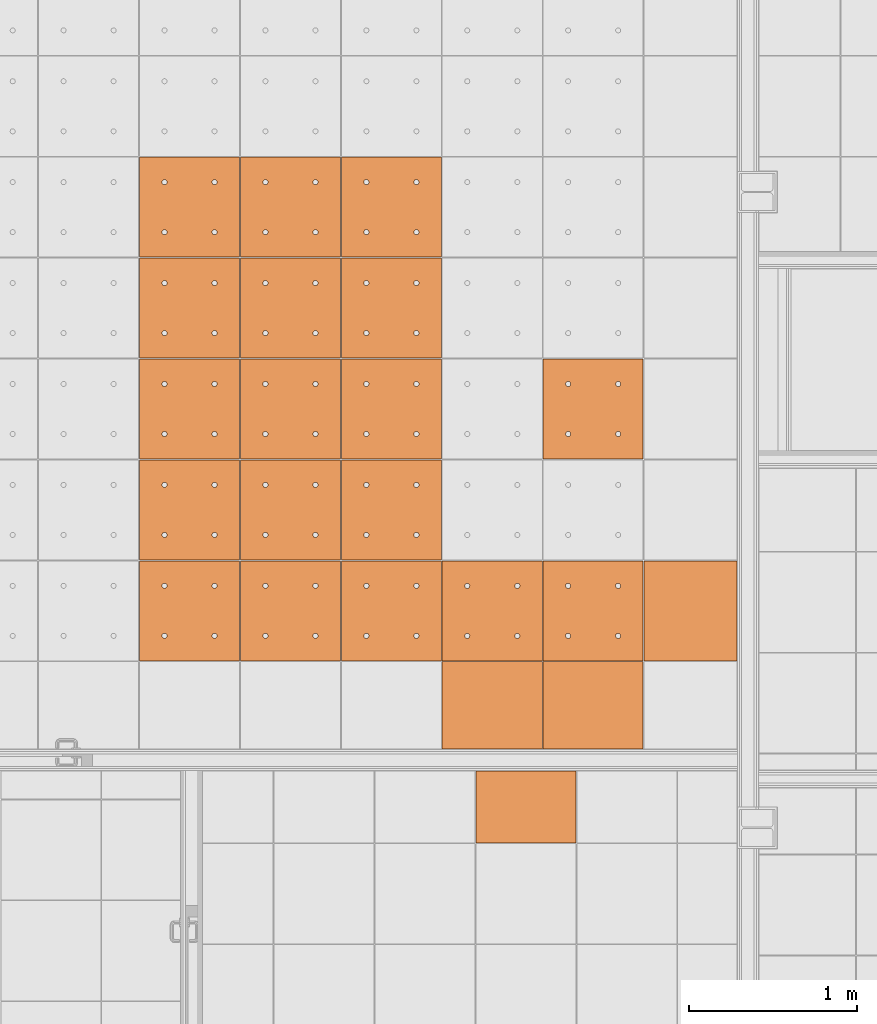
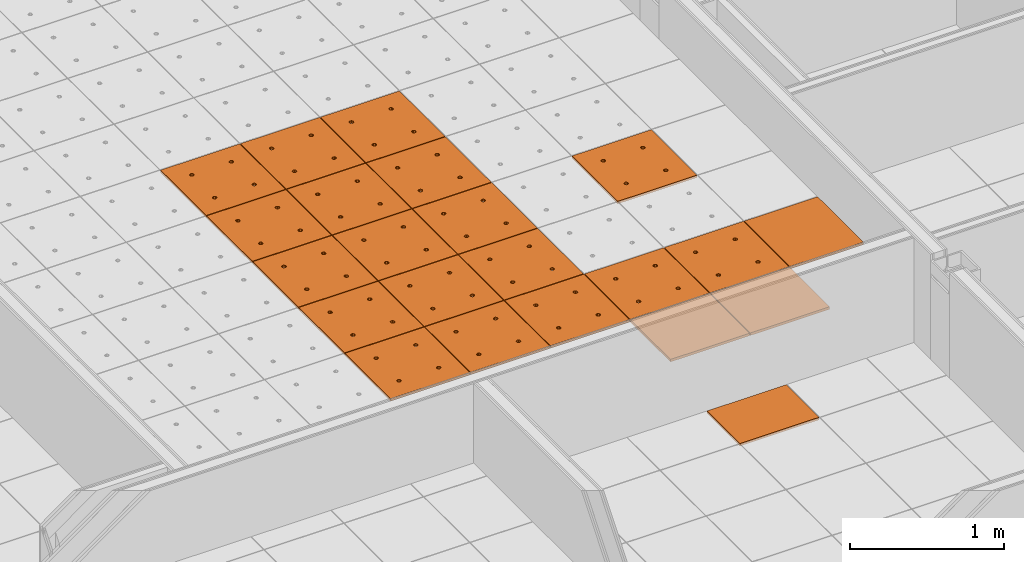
# One storey, part 289 of 338: 22 proxies, 2 elements without a shape of their own.
"""IFC2X3 building model written with IfcOpenShell, lengths in millimetres."""

from ifc_helpers import new_model, entity, si_unit, converted_unit, derived_unit, money_unit, direction, frame, origin_with_axes, place, context, subcontext, project, spatial, faceted_brep, source, transform, mapped, material, type_object, type_shapes, element, aggregate, save


model = new_model("IFC2X3")

# Units and contexts
model_context = context("Model", 3, precision=0.01, world=origin_with_axes(), true_north=direction((0.0, 1.0)))
plan_context = context("Plan", 3, precision=0.01, world=origin_with_axes(), true_north=direction((0.0, 1.0)))
body_context = subcontext(model_context, "Body", "Model", "MODEL_VIEW")
ifc_project = project(units=[si_unit("LENGTHUNIT", "METRE", prefix="MILLI"), si_unit("AREAUNIT", "SQUARE_METRE"), si_unit("VOLUMEUNIT", "CUBIC_METRE"), converted_unit("PLANEANGLEUNIT", "DEGREE", entity("IfcPlaneAngleMeasure", 0.0174532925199), si_unit("PLANEANGLEUNIT", "RADIAN"), dimensions=[0, 0, 0, 0, 0, 0, 0]), money_unit("EUR"), converted_unit("TIMEUNIT", "Year", entity("IfcTimeMeasure", 31556926.0), si_unit("TIMEUNIT", "SECOND"), dimensions=[0, 0, 1, 0, 0, 0, 0]), si_unit("MASSUNIT", "GRAM", prefix="KILO"), si_unit("THERMODYNAMICTEMPERATUREUNIT", "DEGREE_CELSIUS"), si_unit("LUMINOUSINTENSITYUNIT", "LUMEN"), si_unit("ENERGYUNIT", "JOULE", prefix="MEGA"), derived_unit("THERMALCONDUCTANCEUNIT", [(si_unit("POWERUNIT", "WATT"), 1), (si_unit("LENGTHUNIT", "METRE"), -1), (si_unit("THERMODYNAMICTEMPERATUREUNIT", "KELVIN"), -1)]), derived_unit("SPECIFICHEATCAPACITYUNIT", [(si_unit("ENERGYUNIT", "JOULE"), 1), (si_unit("MASSUNIT", "GRAM", prefix="KILO"), -1), (si_unit("THERMODYNAMICTEMPERATUREUNIT", "KELVIN"), -1)]), derived_unit("MASSDENSITYUNIT", [(si_unit("MASSUNIT", "GRAM", prefix="KILO"), 1), (si_unit("VOLUMEUNIT", "CUBIC_METRE"), -1)])], contexts=[model_context, plan_context])

# Site, building, storey
site_placement = place(None, origin_with_axes())
site = spatial("IfcSite", under=ifc_project, at=site_placement, Name="Fortuinstraat Woensdrecht", CompositionType="ELEMENT")
building_placement = place(site_placement, origin_with_axes())
building = spatial("IfcBuilding", under=site, at=building_placement, Name="IKC Fortuna", CompositionType="ELEMENT")
storey_placement = place(building_placement, origin_with_axes())
storey = spatial("IfcBuildingStorey", under=building, at=storey_placement, Name="00 begane grond", CompositionType="ELEMENT", Elevation=0.0)

# Covering, proxies
covering_type = type_object("IfcCoveringType", Name="Curtain Wall Type", PredefinedType="CEILING")
covering_1_placement = place(storey_placement, frame((24394.3550152, 31482.3495284, 3210.0), z_axis=(0.0, 0.0, 1.0), x_axis=(1.0, 0.0, 0.0)))
covering_1 = element("IfcCovering", 1, at=covering_1_placement, inside=storey, type_object=covering_type, Name="45_Plafondafwerking_P01", PredefinedType="CEILING")
ifc_material = material(Name="Gipsplaat")
building_element_proxy_type_1 = type_object("IfcBuildingElementProxyType", Name="Main Panel 600 x 600 x 20", PredefinedType="NOTDEFINED")
shared_shape_1 = source(origin_with_axes(), body_context, "Body", "Brep", [
    faceted_brep([(2.49999999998, 2.49999999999, -10.0), (300.0, 2.49999999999, -10.0), (300.0, 2.49999999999, 10.0), (2.49999999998, 2.49999999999, 10.0), (2.49999999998, 300.0, -10.0), (2.49999999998, 597.5, -10.0), (300.0, 597.5, -10.0), (597.5, 597.5, -10.0), (597.5, 300.0, -10.0), (597.5, 2.49999999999, -10.0), (166.25, 450.06232995, -10.0), (165.79423259, 452.64711538, -10.0), (164.896546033, 455.11348892, -10.0), (163.58421608, 457.38651108, -10.0), (161.897117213, 459.39711721, -10.0), (159.886511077, 461.08421608, -10.0), (157.613488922, 462.39654603, -10.0), (155.147115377, 463.29423259, -10.0), (152.562329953, 463.75, -10.0), (149.937670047, 463.75, -10.0), (147.352884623, 463.29423259, -10.0), (144.886511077, 462.39654603, -10.0), (142.613488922, 461.08421608, -10.0), (140.602882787, 459.39711721, -10.0), (138.91578392, 457.38651108, -10.0), (137.603453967, 455.11348892, -10.0), (136.705767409, 452.64711538, -10.0), (136.25, 450.06232995, -10.0), (136.25, 448.75, -10.0), (136.25, 447.43767005, -10.0), (136.705767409, 444.85288462, -10.0), (137.603453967, 442.38651108, -10.0), (138.91578392, 440.11348892, -10.0), (140.602882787, 438.10288279, -10.0), (142.613488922, 436.41578392, -10.0), (144.886511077, 435.10345397, -10.0), (147.352884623, 434.20576741, -10.0), (149.937670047, 433.75, -10.0), (152.562329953, 433.75, -10.0), (155.147115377, 434.20576741, -10.0), (157.613488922, 435.10345397, -10.0), (159.886511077, 436.41578392, -10.0), (161.897117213, 438.10288279, -10.0), (163.58421608, 440.11348892, -10.0), (164.896546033, 442.38651108, -10.0), (165.79423259, 444.85288462, -10.0), (166.25, 447.43767005, -10.0), (463.75, 450.06232995, -10.0), (463.29423259, 452.64711538, -10.0), (462.396546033, 455.11348892, -10.0), (461.08421608, 457.38651108, -10.0), (459.397117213, 459.39711721, -10.0), (457.386511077, 461.08421608, -10.0), (455.113488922, 462.39654603, -10.0), (452.647115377, 463.29423259, -10.0), (450.062329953, 463.75, -10.0), (447.437670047, 463.75, -10.0), (444.852884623, 463.29423259, -10.0), (442.386511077, 462.39654603, -10.0), (440.113488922, 461.08421608, -10.0), (438.102882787, 459.39711721, -10.0), (436.41578392, 457.38651108, -10.0), (435.103453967, 455.11348892, -10.0), (434.205767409, 452.64711538, -10.0), (433.75, 450.06232995, -10.0), (433.75, 448.75, -10.0), (433.75, 447.43767005, -10.0), (434.205767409, 444.85288462, -10.0), (435.103453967, 442.38651108, -10.0), (436.41578392, 440.11348892, -10.0), (438.102882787, 438.10288279, -10.0), (440.113488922, 436.41578392, -10.0), (442.386511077, 435.10345397, -10.0), (444.852884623, 434.20576741, -10.0), (447.437670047, 433.75, -10.0), (450.062329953, 433.75, -10.0), (452.647115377, 434.20576741, -10.0), (455.113488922, 435.10345397, -10.0), (457.386511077, 436.41578392, -10.0), (459.397117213, 438.10288279, -10.0), (461.08421608, 440.11348892, -10.0), (462.396546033, 442.38651108, -10.0), (463.29423259, 444.85288462, -10.0), (463.75, 447.43767005, -10.0), (463.75, 152.56232995, -10.0), (463.29423259, 155.14711538, -10.0), (462.396546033, 157.61348892, -10.0), (461.08421608, 159.88651108, -10.0), (459.397117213, 161.89711721, -10.0), (457.386511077, 163.58421608, -10.0), (455.113488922, 164.89654603, -10.0), (452.647115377, 165.79423259, -10.0), (450.062329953, 166.25, -10.0), (447.437670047, 166.25, -10.0), (444.852884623, 165.79423259, -10.0), (442.386511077, 164.89654603, -10.0), (440.113488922, 163.58421608, -10.0), (438.102882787, 161.89711721, -10.0), (436.41578392, 159.88651108, -10.0), (435.103453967, 157.61348892, -10.0), (434.205767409, 155.14711538, -10.0), (433.75, 152.56232995, -10.0), (433.75, 151.25, -10.0), (433.75, 149.93767005, -10.0), (434.205767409, 147.35288462, -10.0), (435.103453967, 144.88651108, -10.0), (436.41578392, 142.61348892, -10.0), (438.102882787, 140.60288279, -10.0), (440.113488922, 138.91578392, -10.0), (442.386511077, 137.60345397, -10.0), (444.852884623, 136.70576741, -10.0), (447.437670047, 136.25, -10.0), (450.062329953, 136.25, -10.0), (452.647115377, 136.70576741, -10.0), (455.113488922, 137.60345397, -10.0), (457.386511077, 138.91578392, -10.0), (459.397117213, 140.60288279, -10.0), (461.08421608, 142.61348892, -10.0), (462.396546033, 144.88651108, -10.0), (463.29423259, 147.35288462, -10.0), (463.75, 149.93767005, -10.0), (166.25, 152.56232995, -10.0), (165.79423259, 155.14711538, -10.0), (164.896546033, 157.61348892, -10.0), (163.58421608, 159.88651108, -10.0), (161.897117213, 161.89711721, -10.0), (159.886511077, 163.58421608, -10.0), (157.613488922, 164.89654603, -10.0), (155.147115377, 165.79423259, -10.0), (152.562329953, 166.25, -10.0), (149.937670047, 166.25, -10.0), (147.352884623, 165.79423259, -10.0), (144.886511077, 164.89654603, -10.0), (142.613488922, 163.58421608, -10.0), (140.602882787, 161.89711721, -10.0), (138.91578392, 159.88651108, -10.0), (137.603453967, 157.61348892, -10.0), (136.705767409, 155.14711538, -10.0), (136.25, 152.56232995, -10.0), (136.25, 151.25, -10.0), (136.25, 149.93767005, -10.0), (136.705767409, 147.35288462, -10.0), (137.603453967, 144.88651108, -10.0), (138.91578392, 142.61348892, -10.0), (140.602882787, 140.60288279, -10.0), (142.613488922, 138.91578392, -10.0), (144.886511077, 137.60345397, -10.0), (147.352884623, 136.70576741, -10.0), (149.937670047, 136.25, -10.0), (152.562329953, 136.25, -10.0), (155.147115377, 136.70576741, -10.0), (157.613488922, 137.60345397, -10.0), (159.886511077, 138.91578392, -10.0), (161.897117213, 140.60288279, -10.0), (163.58421608, 142.61348892, -10.0), (164.896546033, 144.88651108, -10.0), (165.79423259, 147.35288462, -10.0), (166.25, 149.93767005, -10.0), (597.5, 2.49999999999, 10.0), (597.5, 300.0, 10.0), (597.5, 597.5, 10.0), (300.0, 597.5, 10.0), (2.49999999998, 597.5, 10.0), (2.49999999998, 300.0, 10.0), (166.25, 450.06232995, 10.0), (166.25, 447.43767005, 10.0), (165.79423259, 444.85288462, 10.0), (164.896546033, 442.38651108, 10.0), (163.58421608, 440.11348892, 10.0), (161.897117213, 438.10288279, 10.0), (159.886511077, 436.41578392, 10.0), (157.613488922, 435.10345397, 10.0), (155.147115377, 434.20576741, 10.0), (152.562329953, 433.75, 10.0), (149.937670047, 433.75, 10.0), (147.352884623, 434.20576741, 10.0), (144.886511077, 435.10345397, 10.0), (142.613488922, 436.41578392, 10.0), (140.602882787, 438.10288279, 10.0), (138.91578392, 440.11348892, 10.0), (137.603453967, 442.38651108, 10.0), (136.705767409, 444.85288462, 10.0), (136.25, 447.43767005, 10.0), (136.25, 448.75, 10.0), (136.25, 450.06232995, 10.0), (136.705767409, 452.64711538, 10.0), (137.603453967, 455.11348892, 10.0), (138.91578392, 457.38651108, 10.0), (140.602882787, 459.39711721, 10.0), (142.613488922, 461.08421608, 10.0), (144.886511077, 462.39654603, 10.0), (147.352884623, 463.29423259, 10.0), (149.937670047, 463.75, 10.0), (152.562329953, 463.75, 10.0), (155.147115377, 463.29423259, 10.0), (157.613488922, 462.39654603, 10.0), (159.886511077, 461.08421608, 10.0), (161.897117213, 459.39711721, 10.0), (163.58421608, 457.38651108, 10.0), (164.896546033, 455.11348892, 10.0), (165.79423259, 452.64711538, 10.0), (463.75, 450.06232995, 10.0), (463.75, 447.43767005, 10.0), (463.29423259, 444.85288462, 10.0), (462.396546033, 442.38651108, 10.0), (461.08421608, 440.11348892, 10.0), (459.397117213, 438.10288279, 10.0), (457.386511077, 436.41578392, 10.0), (455.113488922, 435.10345397, 10.0), (452.647115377, 434.20576741, 10.0), (450.062329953, 433.75, 10.0), (447.437670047, 433.75, 10.0), (444.852884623, 434.20576741, 10.0), (442.386511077, 435.10345397, 10.0), (440.113488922, 436.41578392, 10.0), (438.102882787, 438.10288279, 10.0), (436.41578392, 440.11348892, 10.0), (435.103453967, 442.38651108, 10.0), (434.205767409, 444.85288462, 10.0), (433.75, 447.43767005, 10.0), (433.75, 448.75, 10.0), (433.75, 450.06232995, 10.0), (434.205767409, 452.64711538, 10.0), (435.103453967, 455.11348892, 10.0), (436.41578392, 457.38651108, 10.0), (438.102882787, 459.39711721, 10.0), (440.113488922, 461.08421608, 10.0), (442.386511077, 462.39654603, 10.0), (444.852884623, 463.29423259, 10.0), (447.437670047, 463.75, 10.0), (450.062329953, 463.75, 10.0), (452.647115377, 463.29423259, 10.0), (455.113488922, 462.39654603, 10.0), (457.386511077, 461.08421608, 10.0), (459.397117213, 459.39711721, 10.0), (461.08421608, 457.38651108, 10.0), (462.396546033, 455.11348892, 10.0), (463.29423259, 452.64711538, 10.0), (463.75, 152.56232995, 10.0), (463.75, 149.93767005, 10.0), (463.29423259, 147.35288462, 10.0), (462.396546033, 144.88651108, 10.0), (461.08421608, 142.61348892, 10.0), (459.397117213, 140.60288279, 10.0), (457.386511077, 138.91578392, 10.0), (455.113488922, 137.60345397, 10.0), (452.647115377, 136.70576741, 10.0), (450.062329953, 136.25, 10.0), (447.437670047, 136.25, 10.0), (444.852884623, 136.70576741, 10.0), (442.386511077, 137.60345397, 10.0), (440.113488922, 138.91578392, 10.0), (438.102882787, 140.60288279, 10.0), (436.41578392, 142.61348892, 10.0), (435.103453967, 144.88651108, 10.0), (434.205767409, 147.35288462, 10.0), (433.75, 149.93767005, 10.0), (433.75, 151.25, 10.0), (433.75, 152.56232995, 10.0), (434.205767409, 155.14711538, 10.0), (435.103453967, 157.61348892, 10.0), (436.41578392, 159.88651108, 10.0), (438.102882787, 161.89711721, 10.0), (440.113488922, 163.58421608, 10.0), (442.386511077, 164.89654603, 10.0), (444.852884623, 165.79423259, 10.0), (447.437670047, 166.25, 10.0), (450.062329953, 166.25, 10.0), (452.647115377, 165.79423259, 10.0), (455.113488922, 164.89654603, 10.0), (457.386511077, 163.58421608, 10.0), (459.397117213, 161.89711721, 10.0), (461.08421608, 159.88651108, 10.0), (462.396546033, 157.61348892, 10.0), (463.29423259, 155.14711538, 10.0), (166.25, 152.56232995, 10.0), (166.25, 149.93767005, 10.0), (165.79423259, 147.35288462, 10.0), (164.896546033, 144.88651108, 10.0), (163.58421608, 142.61348892, 10.0), (161.897117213, 140.60288279, 10.0), (159.886511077, 138.91578392, 10.0), (157.613488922, 137.60345397, 10.0), (155.147115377, 136.70576741, 10.0), (152.562329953, 136.25, 10.0), (149.937670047, 136.25, 10.0), (147.352884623, 136.70576741, 10.0), (144.886511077, 137.60345397, 10.0), (142.613488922, 138.91578392, 10.0), (140.602882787, 140.60288279, 10.0), (138.91578392, 142.61348892, 10.0), (137.603453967, 144.88651108, 10.0), (136.705767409, 147.35288462, 10.0), (136.25, 149.93767005, 10.0), (136.25, 151.25, 10.0), (136.25, 152.56232995, 10.0), (136.705767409, 155.14711538, 10.0), (137.603453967, 157.61348892, 10.0), (138.91578392, 159.88651108, 10.0), (140.602882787, 161.89711721, 10.0), (142.613488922, 163.58421608, 10.0), (144.886511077, 164.89654603, 10.0), (147.352884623, 165.79423259, 10.0), (149.937670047, 166.25, 10.0), (152.562329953, 166.25, 10.0), (155.147115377, 165.79423259, 10.0), (157.613488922, 164.89654603, 10.0), (159.886511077, 163.58421608, 10.0), (161.897117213, 161.89711721, 10.0), (163.58421608, 159.88651108, 10.0), (164.896546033, 157.61348892, 10.0), (165.79423259, 155.14711538, 10.0)], [[[0, 1, 2, 3]], [[0, 4, 5, 6, 7, 8, 9, 1], [10, 11, 12, 13, 14, 15, 16, 17, 18, 19, 20, 21, 22, 23, 24, 25, 26, 27, 28, 29, 30, 31, 32, 33, 34, 35, 36, 37, 38, 39, 40, 41, 42, 43, 44, 45, 46], [47, 48, 49, 50, 51, 52, 53, 54, 55, 56, 57, 58, 59, 60, 61, 62, 63, 64, 65, 66, 67, 68, 69, 70, 71, 72, 73, 74, 75, 76, 77, 78, 79, 80, 81, 82, 83], [84, 85, 86, 87, 88, 89, 90, 91, 92, 93, 94, 95, 96, 97, 98, 99, 100, 101, 102, 103, 104, 105, 106, 107, 108, 109, 110, 111, 112, 113, 114, 115, 116, 117, 118, 119, 120], [121, 122, 123, 124, 125, 126, 127, 128, 129, 130, 131, 132, 133, 134, 135, 136, 137, 138, 139, 140, 141, 142, 143, 144, 145, 146, 147, 148, 149, 150, 151, 152, 153, 154, 155, 156, 157]], [[1, 9, 158, 2]], [[3, 2, 158, 159, 160, 161, 162, 163], [164, 165, 166, 167, 168, 169, 170, 171, 172, 173, 174, 175, 176, 177, 178, 179, 180, 181, 182, 183, 184, 185, 186, 187, 188, 189, 190, 191, 192, 193, 194, 195, 196, 197, 198, 199, 200], [201, 202, 203, 204, 205, 206, 207, 208, 209, 210, 211, 212, 213, 214, 215, 216, 217, 218, 219, 220, 221, 222, 223, 224, 225, 226, 227, 228, 229, 230, 231, 232, 233, 234, 235, 236, 237], [238, 239, 240, 241, 242, 243, 244, 245, 246, 247, 248, 249, 250, 251, 252, 253, 254, 255, 256, 257, 258, 259, 260, 261, 262, 263, 264, 265, 266, 267, 268, 269, 270, 271, 272, 273, 274], [275, 276, 277, 278, 279, 280, 281, 282, 283, 284, 285, 286, 287, 288, 289, 290, 291, 292, 293, 294, 295, 296, 297, 298, 299, 300, 301, 302, 303, 304, 305, 306, 307, 308, 309, 310, 311]], [[4, 0, 3, 163]], [[5, 4, 163, 162]], [[6, 5, 162, 161]], [[7, 6, 161, 160]], [[8, 7, 160, 159]], [[9, 8, 159, 158]], [[11, 10, 164, 200]], [[12, 11, 200, 199]], [[13, 12, 199, 198]], [[14, 13, 198, 197]], [[15, 14, 197, 196]], [[16, 15, 196, 195]], [[17, 16, 195, 194]], [[18, 17, 194, 193]], [[19, 18, 193, 192]], [[20, 19, 192, 191]], [[21, 20, 191, 190]], [[22, 21, 190, 189]], [[23, 22, 189, 188]], [[24, 23, 188, 187]], [[25, 24, 187, 186]], [[26, 25, 186, 185]], [[27, 26, 185, 184]], [[28, 27, 184, 183]], [[29, 28, 183, 182]], [[30, 29, 182, 181]], [[31, 30, 181, 180]], [[32, 31, 180, 179]], [[33, 32, 179, 178]], [[34, 33, 178, 177]], [[35, 34, 177, 176]], [[36, 35, 176, 175]], [[37, 36, 175, 174]], [[38, 37, 174, 173]], [[39, 38, 173, 172]], [[40, 39, 172, 171]], [[41, 40, 171, 170]], [[42, 41, 170, 169]], [[43, 42, 169, 168]], [[44, 43, 168, 167]], [[45, 44, 167, 166]], [[46, 45, 166, 165]], [[10, 46, 165, 164]], [[48, 47, 201, 237]], [[49, 48, 237, 236]], [[50, 49, 236, 235]], [[51, 50, 235, 234]], [[52, 51, 234, 233]], [[53, 52, 233, 232]], [[54, 53, 232, 231]], [[55, 54, 231, 230]], [[56, 55, 230, 229]], [[57, 56, 229, 228]], [[58, 57, 228, 227]], [[59, 58, 227, 226]], [[60, 59, 226, 225]], [[61, 60, 225, 224]], [[62, 61, 224, 223]], [[63, 62, 223, 222]], [[64, 63, 222, 221]], [[65, 64, 221, 220]], [[66, 65, 220, 219]], [[67, 66, 219, 218]], [[68, 67, 218, 217]], [[69, 68, 217, 216]], [[70, 69, 216, 215]], [[71, 70, 215, 214]], [[72, 71, 214, 213]], [[73, 72, 213, 212]], [[74, 73, 212, 211]], [[75, 74, 211, 210]], [[76, 75, 210, 209]], [[77, 76, 209, 208]], [[78, 77, 208, 207]], [[79, 78, 207, 206]], [[80, 79, 206, 205]], [[81, 80, 205, 204]], [[82, 81, 204, 203]], [[83, 82, 203, 202]], [[47, 83, 202, 201]], [[85, 84, 238, 274]], [[86, 85, 274, 273]], [[87, 86, 273, 272]], [[88, 87, 272, 271]], [[89, 88, 271, 270]], [[90, 89, 270, 269]], [[91, 90, 269, 268]], [[92, 91, 268, 267]], [[93, 92, 267, 266]], [[94, 93, 266, 265]], [[95, 94, 265, 264]], [[96, 95, 264, 263]], [[97, 96, 263, 262]], [[98, 97, 262, 261]], [[99, 98, 261, 260]], [[100, 99, 260, 259]], [[101, 100, 259, 258]], [[102, 101, 258, 257]], [[103, 102, 257, 256]], [[104, 103, 256, 255]], [[105, 104, 255, 254]], [[106, 105, 254, 253]], [[107, 106, 253, 252]], [[108, 107, 252, 251]], [[109, 108, 251, 250]], [[110, 109, 250, 249]], [[111, 110, 249, 248]], [[112, 111, 248, 247]], [[113, 112, 247, 246]], [[114, 113, 246, 245]], [[115, 114, 245, 244]], [[116, 115, 244, 243]], [[117, 116, 243, 242]], [[118, 117, 242, 241]], [[119, 118, 241, 240]], [[120, 119, 240, 239]], [[84, 120, 239, 238]], [[122, 121, 275, 311]], [[123, 122, 311, 310]], [[124, 123, 310, 309]], [[125, 124, 309, 308]], [[126, 125, 308, 307]], [[127, 126, 307, 306]], [[128, 127, 306, 305]], [[129, 128, 305, 304]], [[130, 129, 304, 303]], [[131, 130, 303, 302]], [[132, 131, 302, 301]], [[133, 132, 301, 300]], [[134, 133, 300, 299]], [[135, 134, 299, 298]], [[136, 135, 298, 297]], [[137, 136, 297, 296]], [[138, 137, 296, 295]], [[139, 138, 295, 294]], [[140, 139, 294, 293]], [[141, 140, 293, 292]], [[142, 141, 292, 291]], [[143, 142, 291, 290]], [[144, 143, 290, 289]], [[145, 144, 289, 288]], [[146, 145, 288, 287]], [[147, 146, 287, 286]], [[148, 147, 286, 285]], [[149, 148, 285, 284]], [[150, 149, 284, 283]], [[151, 150, 283, 282]], [[152, 151, 282, 281]], [[153, 152, 281, 280]], [[154, 153, 280, 279]], [[155, 154, 279, 278]], [[156, 155, 278, 277]], [[157, 156, 277, 276]], [[121, 157, 276, 275]]]),
])
type_shapes(building_element_proxy_type_1, [shared_shape_1])
proxy_1_placement = place(covering_1_placement, frame((1200.0, -2400.0, 1.06581410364e-10), z_axis=(0.0, 0.0, 1.0), x_axis=(1.0, 0.0, 0.0)))
proxy_1 = element("IfcBuildingElementProxy", 2, at=proxy_1_placement, type_object=building_element_proxy_type_1, material=ifc_material, Name="__600x642 Rockfon Krios", context=body_context, shape_type="MappedRepresentation", body=[
    mapped(shared_shape_1, transform((300.0, 300.0, 0.0), x_axis=(-1.0, 0.0, 0.0), y_axis=(0.0, -1.0, 0.0), z_axis=(0.0, 0.0, 1.0))),
])
proxy_2_placement = place(covering_1_placement, frame((1200.0, -1800.0, 1.06581410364e-10), z_axis=(0.0, 0.0, 1.0), x_axis=(1.0, 0.0, 0.0)))
proxy_2 = element("IfcBuildingElementProxy", 3, at=proxy_2_placement, type_object=building_element_proxy_type_1, material=ifc_material, Name="__600x644 Rockfon Krios", context=body_context, shape_type="MappedRepresentation", body=[
    mapped(shared_shape_1, transform((300.0, 300.0, 0.0), x_axis=(-1.0, 0.0, 0.0), y_axis=(0.0, -1.0, 0.0), z_axis=(0.0, 0.0, 1.0))),
])
proxy_3_placement = place(covering_1_placement, frame((1200.0, -1200.0, 1.06581410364e-10), z_axis=(0.0, 0.0, 1.0), x_axis=(1.0, 0.0, 0.0)))
proxy_3 = element("IfcBuildingElementProxy", 4, at=proxy_3_placement, type_object=building_element_proxy_type_1, material=ifc_material, Name="__600x648 Rockfon Krios", context=body_context, shape_type="MappedRepresentation", body=[
    mapped(shared_shape_1, transform((300.0, 300.0, 0.0), x_axis=(-1.0, 0.0, 0.0), y_axis=(0.0, -1.0, 0.0), z_axis=(0.0, 0.0, 1.0))),
])
proxy_4_placement = place(covering_1_placement, frame((1200.0, -600.0, 1.06581410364e-10), z_axis=(0.0, 0.0, 1.0), x_axis=(1.0, 0.0, 0.0)))
proxy_4 = element("IfcBuildingElementProxy", 5, at=proxy_4_placement, type_object=building_element_proxy_type_1, material=ifc_material, Name="__600x649 Rockfon Krios", context=body_context, shape_type="MappedRepresentation", body=[
    mapped(shared_shape_1, transform((300.0, 300.0, 0.0), x_axis=(-1.0, 0.0, 0.0), y_axis=(0.0, -1.0, 0.0), z_axis=(0.0, 0.0, 1.0))),
])
proxy_5_placement = place(covering_1_placement, frame((1200.0, 0.0, 1.06581410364e-10), z_axis=(0.0, 0.0, 1.0), x_axis=(1.0, 0.0, 0.0)))
proxy_5 = element("IfcBuildingElementProxy", 6, at=proxy_5_placement, type_object=building_element_proxy_type_1, material=ifc_material, Name="__600x656 Rockfon Krios", context=body_context, shape_type="MappedRepresentation", body=[
    mapped(shared_shape_1, transform((300.0, 300.0, 0.0), x_axis=(-1.0, 0.0, 0.0), y_axis=(0.0, -1.0, 0.0), z_axis=(0.0, 0.0, 1.0))),
])
proxy_6_placement = place(covering_1_placement, frame((3600.0, -1200.0, 0.0), z_axis=(0.0, 0.0, 1.0), x_axis=(1.0, 0.0, 0.0)))
proxy_6 = element("IfcBuildingElementProxy", 7, at=proxy_6_placement, type_object=building_element_proxy_type_1, material=ifc_material, Name="__600x677 Rockfon Krios", context=body_context, shape_type="MappedRepresentation", body=[
    mapped(shared_shape_1, transform((300.0, 300.0, 0.0), x_axis=(-1.0, 0.0, 0.0), y_axis=(0.0, -1.0, 0.0), z_axis=(0.0, 0.0, 1.0))),
])
proxy_7_placement = place(covering_1_placement, frame((3600.0, -2400.0, 0.0), z_axis=(0.0, 0.0, 1.0), x_axis=(1.0, 0.0, 0.0)))
proxy_7 = element("IfcBuildingElementProxy", 8, at=proxy_7_placement, type_object=building_element_proxy_type_1, material=ifc_material, Name="__600x679 Rockfon Krios", context=body_context, shape_type="MappedRepresentation", body=[
    mapped(shared_shape_1, transform((300.0, 300.0, 0.0), x_axis=(-1.0, 0.0, 0.0), y_axis=(0.0, -1.0, 0.0), z_axis=(0.0, 0.0, 1.0))),
])
proxy_8_placement = place(covering_1_placement, frame((3000.0, -2400.0, 0.0), z_axis=(0.0, 0.0, 1.0), x_axis=(1.0, 0.0, 0.0)))
proxy_8 = element("IfcBuildingElementProxy", 9, at=proxy_8_placement, type_object=building_element_proxy_type_1, material=ifc_material, Name="__600x688 Rockfon Krios", context=body_context, shape_type="MappedRepresentation", body=[
    mapped(shared_shape_1, transform((300.0, 300.0, 0.0), x_axis=(-1.0, 0.0, 0.0), y_axis=(0.0, -1.0, 0.0), z_axis=(0.0, 0.0, 1.0))),
])
proxy_9_placement = place(covering_1_placement, frame((2400.0, 0.0, 0.0), z_axis=(0.0, 0.0, 1.0), x_axis=(1.0, 0.0, 0.0)))
proxy_9 = element("IfcBuildingElementProxy", 10, at=proxy_9_placement, type_object=building_element_proxy_type_1, material=ifc_material, Name="__600x693 Rockfon Krios", context=body_context, shape_type="MappedRepresentation", body=[
    mapped(shared_shape_1, transform((300.0, 300.0, 0.0), x_axis=(-1.0, 0.0, 0.0), y_axis=(0.0, -1.0, 0.0), z_axis=(0.0, 0.0, 1.0))),
])
proxy_10_placement = place(covering_1_placement, frame((2400.0, -600.0, 0.0), z_axis=(0.0, 0.0, 1.0), x_axis=(1.0, 0.0, 0.0)))
proxy_10 = element("IfcBuildingElementProxy", 11, at=proxy_10_placement, type_object=building_element_proxy_type_1, material=ifc_material, Name="__600x694 Rockfon Krios", context=body_context, shape_type="MappedRepresentation", body=[
    mapped(shared_shape_1, transform((300.0, 300.0, 0.0), x_axis=(-1.0, 0.0, 0.0), y_axis=(0.0, -1.0, 0.0), z_axis=(0.0, 0.0, 1.0))),
])
proxy_11_placement = place(covering_1_placement, frame((2400.0, -1200.0, 0.0), z_axis=(0.0, 0.0, 1.0), x_axis=(1.0, 0.0, 0.0)))
proxy_11 = element("IfcBuildingElementProxy", 12, at=proxy_11_placement, type_object=building_element_proxy_type_1, material=ifc_material, Name="__600x695 Rockfon Krios", context=body_context, shape_type="MappedRepresentation", body=[
    mapped(shared_shape_1, transform((300.0, 300.0, 0.0), x_axis=(-1.0, 0.0, 0.0), y_axis=(0.0, -1.0, 0.0), z_axis=(0.0, 0.0, 1.0))),
])
proxy_12_placement = place(covering_1_placement, frame((2400.0, -1800.0, 0.0), z_axis=(0.0, 0.0, 1.0), x_axis=(1.0, 0.0, 0.0)))
proxy_12 = element("IfcBuildingElementProxy", 13, at=proxy_12_placement, type_object=building_element_proxy_type_1, material=ifc_material, Name="__600x696 Rockfon Krios", context=body_context, shape_type="MappedRepresentation", body=[
    mapped(shared_shape_1, transform((300.0, 300.0, 0.0), x_axis=(-1.0, 0.0, 0.0), y_axis=(0.0, -1.0, 0.0), z_axis=(0.0, 0.0, 1.0))),
])
proxy_13_placement = place(covering_1_placement, frame((2400.0, -2400.0, 0.0), z_axis=(0.0, 0.0, 1.0), x_axis=(1.0, 0.0, 0.0)))
proxy_13 = element("IfcBuildingElementProxy", 14, at=proxy_13_placement, type_object=building_element_proxy_type_1, material=ifc_material, Name="__600x697 Rockfon Krios", context=body_context, shape_type="MappedRepresentation", body=[
    mapped(shared_shape_1, transform((300.0, 300.0, 0.0), x_axis=(-1.0, 0.0, 0.0), y_axis=(0.0, -1.0, 0.0), z_axis=(0.0, 0.0, 1.0))),
])
proxy_14_placement = place(covering_1_placement, frame((1800.0, 0.0, 0.0), z_axis=(0.0, 0.0, 1.0), x_axis=(1.0, 0.0, 0.0)))
proxy_14 = element("IfcBuildingElementProxy", 15, at=proxy_14_placement, type_object=building_element_proxy_type_1, material=ifc_material, Name="__600x702 Rockfon Krios", context=body_context, shape_type="MappedRepresentation", body=[
    mapped(shared_shape_1, transform((300.0, 300.0, 0.0), x_axis=(-1.0, 0.0, 0.0), y_axis=(0.0, -1.0, 0.0), z_axis=(0.0, 0.0, 1.0))),
])
proxy_15_placement = place(covering_1_placement, frame((1800.0, -600.0, 0.0), z_axis=(0.0, 0.0, 1.0), x_axis=(1.0, 0.0, 0.0)))
proxy_15 = element("IfcBuildingElementProxy", 16, at=proxy_15_placement, type_object=building_element_proxy_type_1, material=ifc_material, Name="__600x703 Rockfon Krios", context=body_context, shape_type="MappedRepresentation", body=[
    mapped(shared_shape_1, transform((300.0, 300.0, 0.0), x_axis=(-1.0, 0.0, 0.0), y_axis=(0.0, -1.0, 0.0), z_axis=(0.0, 0.0, 1.0))),
])
proxy_16_placement = place(covering_1_placement, frame((1800.0, -1200.0, 0.0), z_axis=(0.0, 0.0, 1.0), x_axis=(1.0, 0.0, 0.0)))
proxy_16 = element("IfcBuildingElementProxy", 17, at=proxy_16_placement, type_object=building_element_proxy_type_1, material=ifc_material, Name="__600x704 Rockfon Krios", context=body_context, shape_type="MappedRepresentation", body=[
    mapped(shared_shape_1, transform((300.0, 300.0, 0.0), x_axis=(-1.0, 0.0, 0.0), y_axis=(0.0, -1.0, 0.0), z_axis=(0.0, 0.0, 1.0))),
])
proxy_17_placement = place(covering_1_placement, frame((1800.0, -1800.0, 0.0), z_axis=(0.0, 0.0, 1.0), x_axis=(1.0, 0.0, 0.0)))
proxy_17 = element("IfcBuildingElementProxy", 18, at=proxy_17_placement, type_object=building_element_proxy_type_1, material=ifc_material, Name="__600x705 Rockfon Krios", context=body_context, shape_type="MappedRepresentation", body=[
    mapped(shared_shape_1, transform((300.0, 300.0, 0.0), x_axis=(-1.0, 0.0, 0.0), y_axis=(0.0, -1.0, 0.0), z_axis=(0.0, 0.0, 1.0))),
])
proxy_18_placement = place(covering_1_placement, frame((1800.0, -2400.0, 0.0), z_axis=(0.0, 0.0, 1.0), x_axis=(1.0, 0.0, 0.0)))
proxy_18 = element("IfcBuildingElementProxy", 19, at=proxy_18_placement, type_object=building_element_proxy_type_1, material=ifc_material, Name="__600x706 Rockfon Krios", context=body_context, shape_type="MappedRepresentation", body=[
    mapped(shared_shape_1, transform((300.0, 300.0, 0.0), x_axis=(-1.0, 0.0, 0.0), y_axis=(0.0, -1.0, 0.0), z_axis=(0.0, 0.0, 1.0))),
])
building_element_proxy_type_2 = type_object("IfcBuildingElementProxyType", Name="600 x 525 x 20", PredefinedType="NOTDEFINED")
shared_shape_2 = source(origin_with_axes(), body_context, "Body", "Brep", [
    faceted_brep([(2.49999999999, 2.49999909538, -10.0), (597.5, 2.49999909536, -10.0), (597.5, 2.49999909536, 10.0), (2.49999999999, 2.49999909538, 10.0), (2.50000000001, 522.44694495, -10.0), (597.5, 522.44694495, -10.0), (597.5, 522.44694495, 10.0), (2.50000000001, 522.44694495, 10.0)], [[[0, 1, 2, 3]], [[0, 4, 5, 1]], [[1, 5, 6, 2]], [[3, 2, 6, 7]], [[4, 0, 3, 7]], [[5, 4, 7, 6]]]),
])
proxy_19_placement = place(covering_1_placement, frame((3600.0, -2962.47347248, 0.0), z_axis=(0.0, 0.0, 1.0), x_axis=(1.0, 0.0, 0.0)))
proxy_19 = element("IfcBuildingElementProxy", 20, at=proxy_19_placement, type_object=building_element_proxy_type_2, material=ifc_material, Name="__600x602 Rockfon Krios", context=body_context, shape_type="MappedRepresentation", body=[
    mapped(shared_shape_2, transform((300.0, 262.473472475, 0.0), x_axis=(-1.0, 0.0, 0.0), y_axis=(0.0, -1.0, 0.0), z_axis=(0.0, 0.0, 1.0))),
])
shared_shape_3 = source(origin_with_axes(), body_context, "Body", "Brep", [
    faceted_brep([(2.49999999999, 2.4999990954, -10.0), (597.5, 2.49999909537, -10.0), (597.5, 2.49999909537, 10.0), (2.49999999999, 2.4999990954, 10.0), (2.50000000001, 522.44694495, -10.0), (597.5, 522.44694495, -10.0), (597.5, 522.44694495, 10.0), (2.50000000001, 522.44694495, 10.0)], [[[0, 1, 2, 3]], [[0, 4, 5, 1]], [[1, 5, 6, 2]], [[3, 2, 6, 7]], [[4, 0, 3, 7]], [[5, 4, 7, 6]]]),
])
type_shapes(building_element_proxy_type_2, [shared_shape_2, shared_shape_3])
proxy_20_placement = place(covering_1_placement, frame((3000.0, -2962.47347248, 0.0), z_axis=(0.0, 0.0, 1.0), x_axis=(1.0, 0.0, 0.0)))
proxy_20 = element("IfcBuildingElementProxy", 21, at=proxy_20_placement, type_object=building_element_proxy_type_2, material=ifc_material, Name="__600x609 Rockfon Krios", context=body_context, shape_type="MappedRepresentation", body=[
    mapped(shared_shape_3, transform((300.0, 262.473472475, 0.0), x_axis=(-1.0, 0.0, 0.0), y_axis=(0.0, -1.0, 0.0), z_axis=(0.0, 0.0, 1.0))),
])
building_element_proxy_type_3 = type_object("IfcBuildingElementProxyType", Name="558 x 600 x 20", PredefinedType="NOTDEFINED")
shared_shape_4 = source(origin_with_axes(), body_context, "Body", "Brep", [
    faceted_brep([(44.9200164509, 2.5, -10.0), (597.5, 2.49999999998, -10.0), (597.5, 2.49999999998, 10.0), (44.9200164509, 2.5, 10.0), (44.9200164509, 597.5, -10.0), (597.5, 597.5, -10.0), (597.5, 597.5, 10.0), (44.9200164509, 597.5, 10.0)], [[[0, 1, 2, 3]], [[0, 4, 5, 1]], [[1, 5, 6, 2]], [[3, 2, 6, 7]], [[4, 0, 3, 7]], [[5, 4, 7, 6]]]),
])
type_shapes(building_element_proxy_type_3, [shared_shape_4])
proxy_21_placement = place(covering_1_placement, frame((4178.78999197, -2400.0, 0.0), z_axis=(0.0, 0.0, 1.0), x_axis=(1.0, 0.0, 0.0)))
proxy_21 = element("IfcBuildingElementProxy", 22, at=proxy_21_placement, type_object=building_element_proxy_type_3, material=ifc_material, Name="__600x667 Rockfon Krios", context=body_context, shape_type="MappedRepresentation", body=[
    mapped(shared_shape_4, transform((321.210008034, 300.0, 0.0), x_axis=(-1.0, 0.0, 0.0), y_axis=(0.0, -1.0, 0.0), z_axis=(0.0, 0.0, 1.0))),
])
aggregate(covering_1, [proxy_19, proxy_20, proxy_1, proxy_2, proxy_3, proxy_4, proxy_5, proxy_21, proxy_6, proxy_7, proxy_8, proxy_9, proxy_10, proxy_11, proxy_12, proxy_13, proxy_14, proxy_15, proxy_16, proxy_17, proxy_18])

# Covering, proxy
covering_2_placement = place(storey_placement, frame((25881.8218229, 26800.2480691, 2810.0), z_axis=(0.0, 0.0, 1.0), x_axis=(1.0, 0.0, 0.0)))
covering_2 = element("IfcCovering", 23, at=covering_2_placement, inside=storey, type_object=covering_type, Name="45_Plafondafwerking_P02", PredefinedType="CEILING")
building_element_proxy_type_4 = type_object("IfcBuildingElementProxyType", Name="Distinct Panel 600 x 432 x 20", PredefinedType="NOTDEFINED")
shared_shape_5 = source(origin_with_axes(), body_context, "Body", "Brep", [
    faceted_brep([(2.49999999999, 170.345486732, -10.0), (597.5, 170.345486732, -10.0), (597.5, 170.345486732, 10.0), (2.49999999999, 170.345486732, 10.0), (2.5, 597.5, -10.0), (597.5, 597.5, -10.0), (597.5, 597.5, 10.0), (2.5, 597.5, 10.0)], [[[0, 1, 2, 3]], [[0, 4, 5, 1]], [[1, 5, 6, 2]], [[3, 2, 6, 7]], [[4, 0, 3, 7]], [[5, 4, 7, 6]]]),
])
type_shapes(building_element_proxy_type_4, [shared_shape_5])
proxy_22_placement = place(covering_2_placement, frame((1712.51106829, 1116.07725517, 0.0), z_axis=(0.0, 0.0, 1.0), x_axis=(1.0, 0.0, 0.0)))
proxy_22 = element("IfcBuildingElementProxy", 24, at=proxy_22_placement, type_object=building_element_proxy_type_4, material=ifc_material, Name="__Panel-D", context=body_context, shape_type="MappedRepresentation", body=[
    mapped(shared_shape_5, transform((300.0, 383.922744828, 0.0), x_axis=(-1.0, 0.0, 0.0), y_axis=(0.0, -1.0, 0.0), z_axis=(0.0, 0.0, 1.0))),
])
aggregate(covering_2, [proxy_22])

save(model, "model.ifc")
